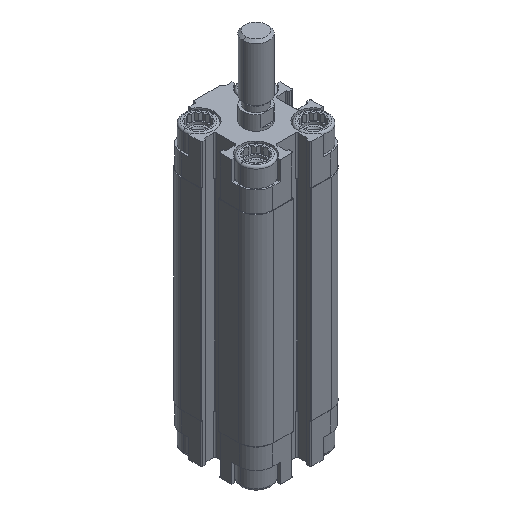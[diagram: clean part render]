
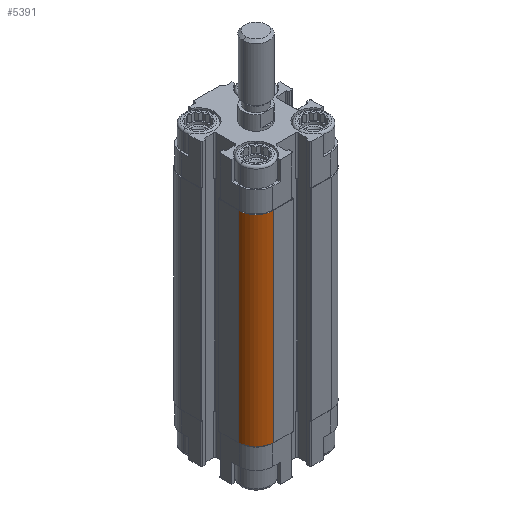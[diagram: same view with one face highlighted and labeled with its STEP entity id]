
A CAD part, isometric view. The second image highlights one B-rep face of the part: STEP entity #5391.
In plain terms, the highlighted cylindrical face has radius 5.5 mm (diameter 11 mm), a partial arc.
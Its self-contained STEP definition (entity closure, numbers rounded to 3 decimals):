
#156 = CARTESIAN_POINT ( 'NONE',  ( -14.5, -9., -75.5 ) ) ;
#427 = VERTEX_POINT ( 'NONE', #8622 ) ;
#1640 = DIRECTION ( 'NONE',  ( 0., 0., 1. ) ) ;
#2439 = VECTOR ( 'NONE', #12307, 1000. ) ;
#2833 = ORIENTED_EDGE ( 'NONE', *, *, #5029, .F. ) ;
#2852 = CARTESIAN_POINT ( 'NONE',  ( -9., -9., -12.5 ) ) ;
#2999 = LINE ( 'NONE', #12379, #2439 ) ;
#3341 = ORIENTED_EDGE ( 'NONE', *, *, #11888, .T. ) ;
#3427 = EDGE_CURVE ( 'NONE', #12899, #5050, #16298, .T. ) ;
#3556 = CYLINDRICAL_SURFACE ( 'NONE', #15024, 5.5 ) ;
#3818 = DIRECTION ( 'NONE',  ( 0., 0., -1. ) ) ;
#4363 = AXIS2_PLACEMENT_3D ( 'NONE', #2852, #5341, #5592 ) ;
#5029 = EDGE_CURVE ( 'NONE', #5050, #5183, #7442, .T. ) ;
#5050 = VERTEX_POINT ( 'NONE', #13662 ) ;
#5183 = VERTEX_POINT ( 'NONE', #16535 ) ;
#5341 = DIRECTION ( 'NONE',  ( 0., 0., 1. ) ) ;
#5391 = ADVANCED_FACE ( 'NONE', ( #7857 ), #3556, .T. ) ;
#5592 = DIRECTION ( 'NONE',  ( -1., 0., 0. ) ) ;
#5742 = CIRCLE ( 'NONE', #11331, 5.5 ) ;
#7442 = CIRCLE ( 'NONE', #4363, 5.5 ) ;
#7857 = FACE_OUTER_BOUND ( 'NONE', #8791, .T. ) ;
#8622 = CARTESIAN_POINT ( 'NONE',  ( -9., -14.5, -75.5 ) ) ;
#8791 = EDGE_LOOP ( 'NONE', ( #2833, #10466, #3341, #11554 ) ) ;
#9172 = DIRECTION ( 'NONE',  ( -1., 0., 0. ) ) ;
#10052 = DIRECTION ( 'NONE',  ( -1., 0., 0. ) ) ;
#10466 = ORIENTED_EDGE ( 'NONE', *, *, #3427, .F. ) ;
#11331 = AXIS2_PLACEMENT_3D ( 'NONE', #12933, #16614, #10052 ) ;
#11554 = ORIENTED_EDGE ( 'NONE', *, *, #15962, .T. ) ;
#11888 = EDGE_CURVE ( 'NONE', #12899, #427, #5742, .T. ) ;
#12307 = DIRECTION ( 'NONE',  ( 0., 0., 1. ) ) ;
#12379 = CARTESIAN_POINT ( 'NONE',  ( -9., -14.5, -75.5 ) ) ;
#12425 = VECTOR ( 'NONE', #1640, 1000. ) ;
#12899 = VERTEX_POINT ( 'NONE', #14710 ) ;
#12933 = CARTESIAN_POINT ( 'NONE',  ( -9., -9., -75.5 ) ) ;
#13662 = CARTESIAN_POINT ( 'NONE',  ( -14.5, -9., -12.5 ) ) ;
#14710 = CARTESIAN_POINT ( 'NONE',  ( -14.5, -9., -75.5 ) ) ;
#15024 = AXIS2_PLACEMENT_3D ( 'NONE', #15841, #3818, #9172 ) ;
#15841 = CARTESIAN_POINT ( 'NONE',  ( -9., -9., -75.5 ) ) ;
#15962 = EDGE_CURVE ( 'NONE', #427, #5183, #2999, .T. ) ;
#16298 = LINE ( 'NONE', #156, #12425 ) ;
#16535 = CARTESIAN_POINT ( 'NONE',  ( -9., -14.5, -12.5 ) ) ;
#16614 = DIRECTION ( 'NONE',  ( 0., 0., 1. ) ) ;
